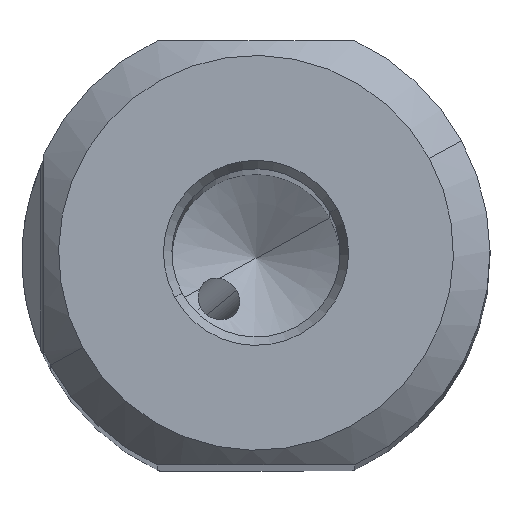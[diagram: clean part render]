
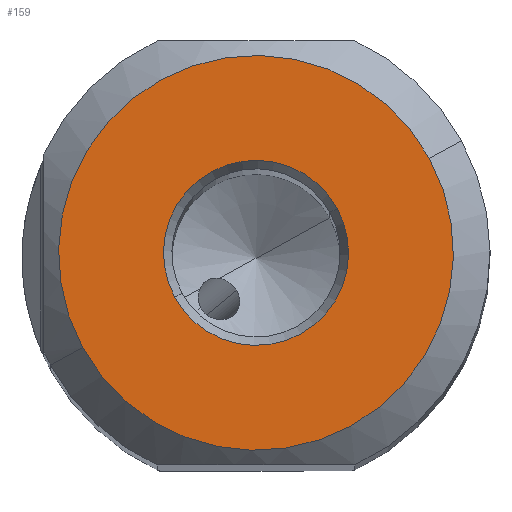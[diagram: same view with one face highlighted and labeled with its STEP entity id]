
A CAD part, top view. The second image highlights one B-rep face of the part: STEP entity #159.
In plain terms, the highlighted planar face has unit normal (0, 0, 1).
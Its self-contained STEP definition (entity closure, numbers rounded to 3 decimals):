
#103=AXIS2_PLACEMENT_3D('Circle Axis2P3D',#101,#102,$) ;
#122=AXIS2_PLACEMENT_3D('Circle Axis2P3D',#120,#121,$) ;
#135=AXIS2_PLACEMENT_3D('Plane Axis2P3D',#132,#133,#134) ;
#139=AXIS2_PLACEMENT_3D('Circle Axis2P3D',#137,#138,$) ;
#148=AXIS2_PLACEMENT_3D('Circle Axis2P3D',#146,#147,$) ;
#98=CARTESIAN_POINT('Vertex',(-5.553,-3.033,0.)) ;
#101=CARTESIAN_POINT('Axis2P3D Location',(0.,0.,0.)) ;
#105=CARTESIAN_POINT('Vertex',(5.553,3.033,0.)) ;
#120=CARTESIAN_POINT('Axis2P3D Location',(0.,0.,0.)) ;
#132=CARTESIAN_POINT('Axis2P3D Location',(6.327,0.,0.)) ;
#137=CARTESIAN_POINT('Axis2P3D Location',(0.,0.,0.)) ;
#141=CARTESIAN_POINT('Vertex',(-11.847,-6.472,0.)) ;
#143=CARTESIAN_POINT('Vertex',(11.847,6.472,0.)) ;
#146=CARTESIAN_POINT('Axis2P3D Location',(0.,0.,0.)) ;
#102=DIRECTION('Axis2P3D Direction',(0.,0.,1.)) ;
#121=DIRECTION('Axis2P3D Direction',(0.,0.,1.)) ;
#133=DIRECTION('Axis2P3D Direction',(0.,0.,1.)) ;
#134=DIRECTION('Axis2P3D XDirection',(1.,0.,0.)) ;
#138=DIRECTION('Axis2P3D Direction',(0.,0.,1.)) ;
#147=DIRECTION('Axis2P3D Direction',(0.,0.,1.)) ;
#152=ORIENTED_EDGE('',*,*,#145,.T.) ;
#153=ORIENTED_EDGE('',*,*,#150,.T.) ;
#156=ORIENTED_EDGE('',*,*,#124,.F.) ;
#157=ORIENTED_EDGE('',*,*,#107,.F.) ;
#158=FACE_BOUND('',#155,.T.) ;
#159=ADVANCED_FACE('NOCUT',(#154,#158),#136,.T.) ;
#104=CIRCLE('generated circle',#103,6.327) ;
#123=CIRCLE('generated circle',#122,6.327) ;
#140=CIRCLE('generated circle',#139,13.5) ;
#149=CIRCLE('generated circle',#148,13.5) ;
#107=EDGE_CURVE('',#99,#106,#104,.T.) ;
#124=EDGE_CURVE('',#106,#99,#123,.T.) ;
#145=EDGE_CURVE('',#142,#144,#140,.T.) ;
#150=EDGE_CURVE('',#144,#142,#149,.T.) ;
#151=EDGE_LOOP('',(#152,#153)) ;
#155=EDGE_LOOP('',(#156,#157)) ;
#154=FACE_OUTER_BOUND('',#151,.T.) ;
#136=PLANE('',#135) ;
#99=VERTEX_POINT('',#98) ;
#106=VERTEX_POINT('',#105) ;
#142=VERTEX_POINT('',#141) ;
#144=VERTEX_POINT('',#143) ;
